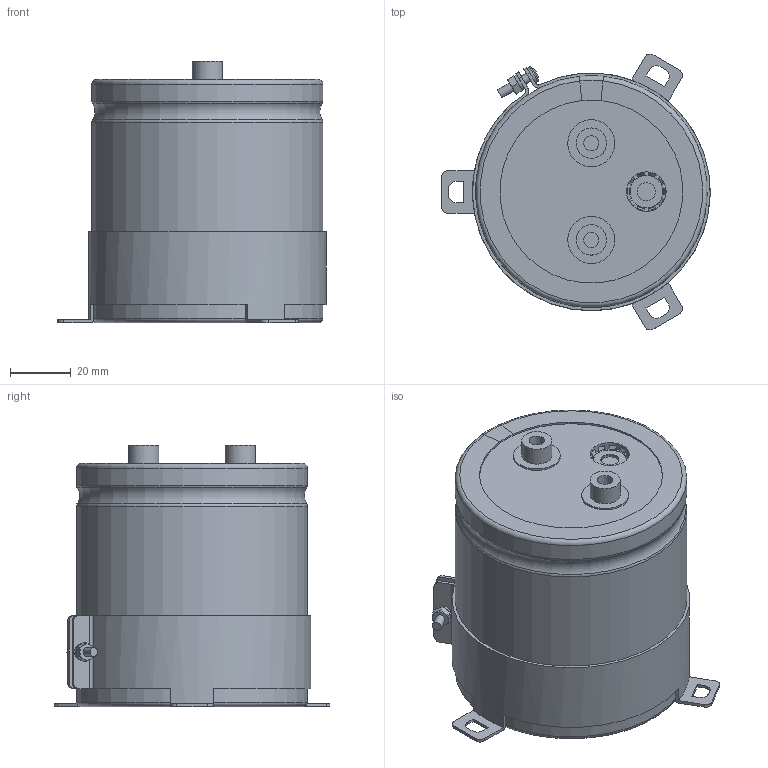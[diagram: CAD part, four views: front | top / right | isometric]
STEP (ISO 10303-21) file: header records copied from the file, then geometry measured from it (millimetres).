
FILE_DESCRIPTION(/* description */ (''),/* implementation_level */ '2;1');
FILE_NAME(/* name */ '76.2x80_Screw.stp',/* time_stamp */ '2017-09-17T13:16:05+09:00',/* author */ (''),/* organization */ (''),/* preprocessor_version */ 'ST-DEVELOPER v16',/* originating_system */ 'SIEMENS PLM Software NX 11.0',/* authorisation */ '');
FILE_SCHEMA (('AUTOMOTIVE_DESIGN { 1 0 10303 214 3 1 1 1 }'));
Length unit declared in the file: millimetre
Products named in the file (1): 76.2x80_Screw
Bounding box: 88.3 x 90.75 x 86 mm (x, y, z)
Volume: 367216 mm3; surface area: 87742.5 mm2
Topology: 9 solids, 9 shells, 259 faces, 642 edges, 413 vertices
Faces by surface type: plane 112, cylinder 66, torus 49, cone 31, sphere 1
Full cylindrical faces by diameter (mm): 3 x5, 5 x2, 5.5 x2, 6 x4, 8 x1, 10 x2, 13 x2, 15.5 x2, 75 x2
Entity records: 8534 total; most frequent: CARTESIAN_POINT 2182, DIRECTION 1296, ORIENTED_EDGE 1214, EDGE_CURVE 607, AXIS2_PLACEMENT_3D 541, VERTEX_POINT 408, EDGE_LOOP 317, CIRCLE 281
